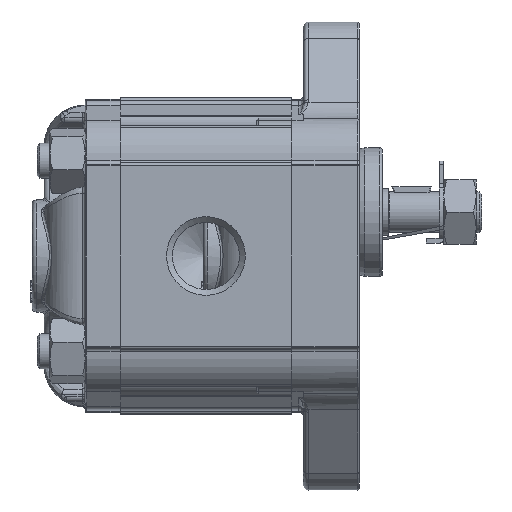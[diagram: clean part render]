
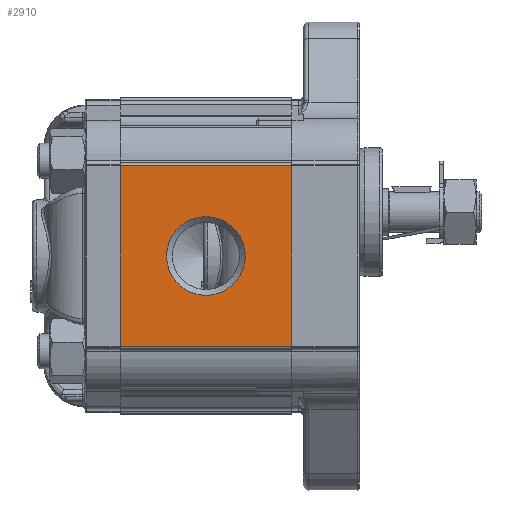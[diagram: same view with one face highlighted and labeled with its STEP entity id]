
A CAD part, left-side view. The second image highlights one B-rep face of the part: STEP entity #2910.
In plain terms, the highlighted planar face has unit normal (-1, 0, 0).
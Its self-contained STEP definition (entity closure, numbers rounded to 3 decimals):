
#2910 = ADVANCED_FACE( '', ( #6829, #6830 ), #6831, .T. );
#6829 = FACE_BOUND( '', #13026, .T. );
#6830 = FACE_OUTER_BOUND( '', #13027, .T. );
#6831 = PLANE( '', #13028 );
#13026 = EDGE_LOOP( '', ( #23664 ) );
#13027 = EDGE_LOOP( '', ( #23665, #23666, #23667, #23668 ) );
#13028 = AXIS2_PLACEMENT_3D( '', #23669, #23670, #23671 );
#23664 = ORIENTED_EDGE( '', *, *, #35291, .T. );
#23665 = ORIENTED_EDGE( '', *, *, #32616, .F. );
#23666 = ORIENTED_EDGE( '', *, *, #32457, .F. );
#23667 = ORIENTED_EDGE( '', *, *, #35292, .T. );
#23668 = ORIENTED_EDGE( '', *, *, #35293, .T. );
#23669 = CARTESIAN_POINT( '', ( -25., 29.3, 15.418 ) );
#23670 = DIRECTION( '', ( -1., 0., 0. ) );
#23671 = DIRECTION( '', ( 0., 0., 1. ) );
#32457 = EDGE_CURVE( '', #38528, #38526, #38530, .T. );
#32616 = EDGE_CURVE( '', #38526, #38813, #38814, .T. );
#35291 = EDGE_CURVE( '', #43021, #43021, #43022, .F. );
#35292 = EDGE_CURVE( '', #38528, #43023, #43024, .T. );
#35293 = EDGE_CURVE( '', #43023, #38813, #43025, .T. );
#38526 = VERTEX_POINT( '', #47267 );
#38528 = VERTEX_POINT( '', #47269 );
#38530 = LINE( '', #47271, #47272 );
#38813 = VERTEX_POINT( '', #47734 );
#38814 = LINE( '', #47735, #47736 );
#43021 = VERTEX_POINT( '', #56380 );
#43022 = CIRCLE( '', #56381, 6.723 );
#43023 = VERTEX_POINT( '', #56382 );
#43024 = LINE( '', #56383, #56384 );
#43025 = LINE( '', #56385, #56386 );
#47267 = CARTESIAN_POINT( '', ( -25., 0., 15.418 ) );
#47269 = CARTESIAN_POINT( '', ( -25., 29.3, 15.418 ) );
#47271 = CARTESIAN_POINT( '', ( -25., 29.3, 15.418 ) );
#47272 = VECTOR( '', #62804, 1000. );
#47734 = CARTESIAN_POINT( '', ( -25., 0., -15.418 ) );
#47735 = CARTESIAN_POINT( '', ( -25., 0., 15.418 ) );
#47736 = VECTOR( '', #63006, 1000. );
#56380 = CARTESIAN_POINT( '', ( -25., 14.65, 6.723 ) );
#56381 = AXIS2_PLACEMENT_3D( '', #66215, #66216, #66217 );
#56382 = CARTESIAN_POINT( '', ( -25., 29.3, -15.418 ) );
#56383 = CARTESIAN_POINT( '', ( -25., 29.3, 15.418 ) );
#56384 = VECTOR( '', #66218, 1000. );
#56385 = CARTESIAN_POINT( '', ( -25., 29.3, -15.418 ) );
#56386 = VECTOR( '', #66219, 1000. );
#62804 = DIRECTION( '', ( 0., -1., 0. ) );
#63006 = DIRECTION( '', ( 0., 0., -1. ) );
#66215 = CARTESIAN_POINT( '', ( -25., 14.65, 0. ) );
#66216 = DIRECTION( '', ( -1., 0., 0. ) );
#66217 = DIRECTION( '', ( 0., 0., 1. ) );
#66218 = DIRECTION( '', ( 0., 0., -1. ) );
#66219 = DIRECTION( '', ( 0., -1., 0. ) );
